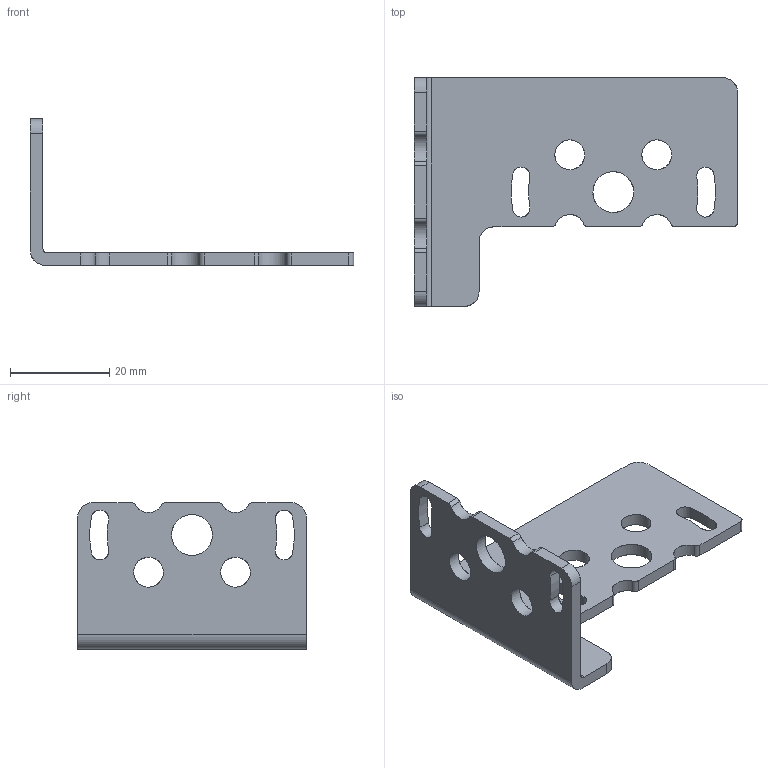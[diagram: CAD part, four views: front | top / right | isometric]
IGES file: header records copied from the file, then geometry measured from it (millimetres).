
Global section: file name: C:\Users\mgiacomazzi\Desktop\281080201_c.igs; native system: NX V10.0; preprocessor: SIEMENS PLM Software NX 10.0; date: 20181029.091308; units: millimetre
Bounding box: 65 x 46 x 29.5 mm (x, y, z)
Surface area: 7176.4 mm2 (no closed solid volume)
Topology: 0 solids, 0 shells, 56 faces, 502 edges, 496 vertices
Faces by surface type: bspline 56
